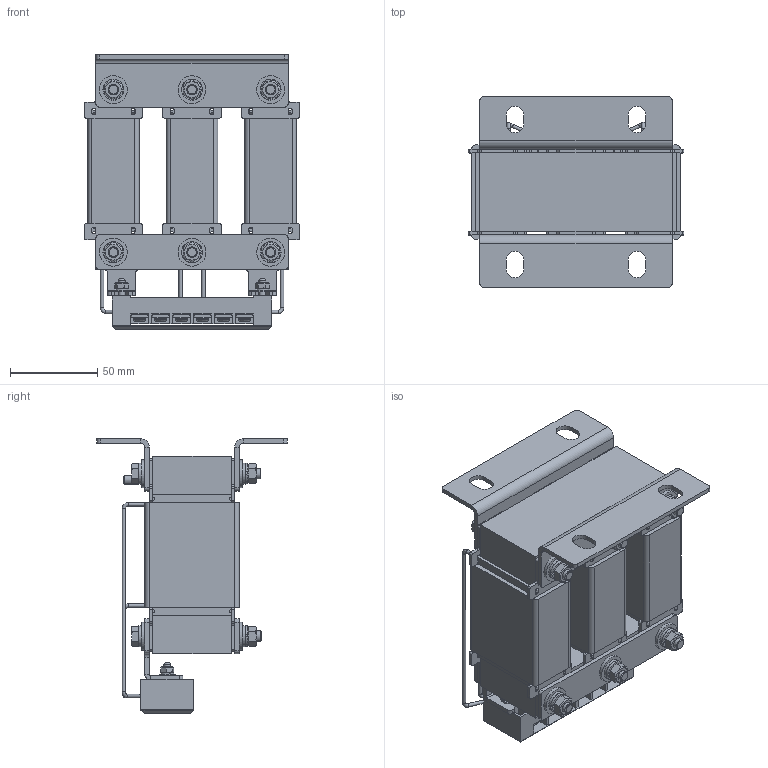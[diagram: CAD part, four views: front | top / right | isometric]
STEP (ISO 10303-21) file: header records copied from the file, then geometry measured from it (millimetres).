
FILE_DESCRIPTION (( 'STEP AP203' ), '1' );
FILE_NAME ('Ñåòåâîé äðîññåëü _ ISF-5.5_15.5-4.STEP', '2026-07-21T14:15:32', ( '' ), ( '' ), 'SwSTEP 2.0', 'SolidWorks 2021', '' );
FILE_SCHEMA (( 'CONFIG_CONTROL_DESIGN' ));
Length unit declared in the file: millimetre
Products named in the file (30): ������� _ 5.5_�ࠢ��; Ëàïà _ 5.5-22_‘â ­¤ àâ ¯®¤ è¯¨«ìªã 01; Êàòóøêà ñ êàðêàñîì _ 5.5_–¥­âà «ì­ ï; Øïèëüêà ïðèâàðíàÿ_Œ5å12; Êðûøêà êëåììíîãî òåðìèíàëà TB-2506 ; Óãîëîê êëåììíèêà _ 5.5-7.5_80; ������� � �������� _ 5.5_�ࠢ��; Øàéáà ïðóæèííàÿ DIN 127 (A)_Œ6; Ãàéêà DIN 934_Œ6; Ëàïà ñî øïèëüêîé çàçåìëåíèÿ _ 5.5-22_‘â ­¤ àâ 01; Øàéáà ïëîñêàÿ DIN 9021_Œ6 ¯®«¨ ¬¨¤; Êîðïóñ êëåììíîãî òåðìèíàëà TB-2506; 昢膼瘔 _ ISF-5.5; Ñåòåâîé äðîññåëü _ ISF-5.5_15.5-4; Êàòóøêà _ 5.5_‹¥¢ ï; Øàéáà ïëîñêàÿ DIN 125 (A)_Œ6; Øàéáà ïëîñêàÿ DIN 125 (A)_Œ4; Øàéáà ïðóæèííàÿ DIN 127 (A)_Œ4; ﾑ褞蒟韭 _ 5.5_01; Ñòåíêà êàðêàñà êàòóøêè ïðîäîëüíàÿ _ 5.5_04; Ïëàñòèíà ïðèæèìíàÿ _ 5.5-22_01; Âèíò DIN 965 PH_Œ4å14 (-); Êàòóøêà _ 5.5_–¥­âà «ì­ ï; Ñòåíêà êàðêàñà êàòóøêè ïîïåðå÷íàÿ _ 5.5_04; 肃镟 _ 5.5-22_戔牠噔 01; Ãàéêà DIN 934_Œ4; Êàòóøêà ñ êàðêàñîì _ 5.5_‹¥¢ ï; 孰屐祉 蝈痨桧嚯 TB-2506; Êàðêàñ êàòóøêè _ 5.5_04; Áîëò DIN 933_Œ6å70
Assembly tree (74 placements, depth 5):
  Ñåòåâîé äðîññåëü _ ISF-5.5_15.5-4
    ﾑ褞蒟韭 _ 5.5_01
      ������� � �������� _ 5.5_�ࠢ��
        Êàðêàñ êàòóøêè _ 5.5_04
          Ñòåíêà êàðêàñà êàòóøêè ïîïåðå÷íàÿ _ 5.5_04  x2
          Ñòåíêà êàðêàñà êàòóøêè ïðîäîëüíàÿ _ 5.5_04  x2
        ������� _ 5.5_�ࠢ��
      Êàòóøêà ñ êàðêàñîì _ 5.5_–¥­âà «ì­ ï
        Êàðêàñ êàòóøêè _ 5.5_04
          Ñòåíêà êàðêàñà êàòóøêè ïîïåðå÷íàÿ _ 5.5_04  x2
          Ñòåíêà êàðêàñà êàòóøêè ïðîäîëüíàÿ _ 5.5_04  x2
        Êàòóøêà _ 5.5_–¥­âà «ì­ ï
      Êàòóøêà ñ êàðêàñîì _ 5.5_‹¥¢ ï
        Êàðêàñ êàòóøêè _ 5.5_04
          Ñòåíêà êàðêàñà êàòóøêè ïîïåðå÷íàÿ _ 5.5_04  x2
          Ñòåíêà êàðêàñà êàòóøêè ïðîäîëüíàÿ _ 5.5_04  x2
        Êàòóøêà _ 5.5_‹¥¢ ï
      昢膼瘔 _ ISF-5.5
    Óãîëîê êëåììíèêà _ 5.5-7.5_80
    Ïëàñòèíà ïðèæèìíàÿ _ 5.5-22_01
    肃镟 _ 5.5-22_戔牠噔 01
    Ëàïà ñî øïèëüêîé çàçåìëåíèÿ _ 5.5-22_‘â ­¤ àâ 01
      Ëàïà _ 5.5-22_‘â ­¤ àâ ¯®¤ è¯¨«ìªã 01
      Øïèëüêà ïðèâàðíàÿ_Œ5å12
    孰屐祉 蝈痨桧嚯 TB-2506
      Êîðïóñ êëåììíîãî òåðìèíàëà TB-2506
      Êðûøêà êëåììíîãî òåðìèíàëà TB-2506 
    Øàéáà ïëîñêàÿ DIN 9021_Œ6 ¯®«¨ ¬¨¤  x12
    Øàéáà ïëîñêàÿ DIN 125 (A)_Œ6  x12
    Øàéáà ïðóæèííàÿ DIN 127 (A)_Œ6  x6
    Ãàéêà DIN 934_Œ6  x6
    Áîëò DIN 933_Œ6å70  x6
    Øàéáà ïëîñêàÿ DIN 125 (A)_Œ4  x2
    Øàéáà ïðóæèííàÿ DIN 127 (A)_Œ4  x2
    Ãàéêà DIN 934_Œ4  x2
    Âèíò DIN 965 PH_Œ4å14 (-)  x2
Bounding box: 123.5 x 109 x 157.1 mm (x, y, z)
Volume: 612837.6 mm3; surface area: 296395.6 mm2
Topology: 103 solids, 103 shells, 2260 faces, 5768 edges, 3765 vertices
Faces by surface type: plane 1363, cylinder 654, cone 139, bspline 80, torus 24
Full cylindrical faces by diameter (mm): 0.75 x1, 2 x24, 3.3 x2, 3.5 x1, 3.9 x48, 4 x2, 4.3 x2, 5 x7, 5.1 x2, 6 x6, 6.4 x24, 6.5 x13, 6.8 x12, 7 x6, 7.5 x4, 8.2 x12, 9 x2, 12 x12, 16 x12
Entity records: 43140 total; most frequent: CARTESIAN_POINT 8473, DIRECTION 6136, ORIENTED_EDGE 6030, EDGE_CURVE 3015, VECTOR 2128, LINE 2128, VERTEX_POINT 2079, AXIS2_PLACEMENT_3D 2004
